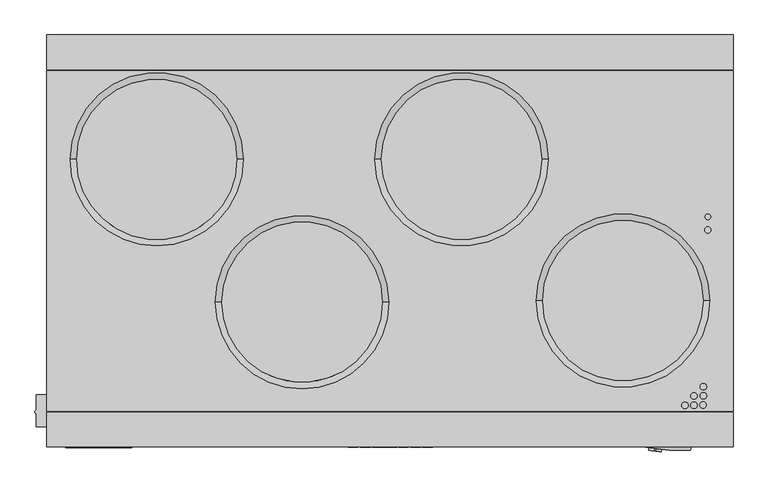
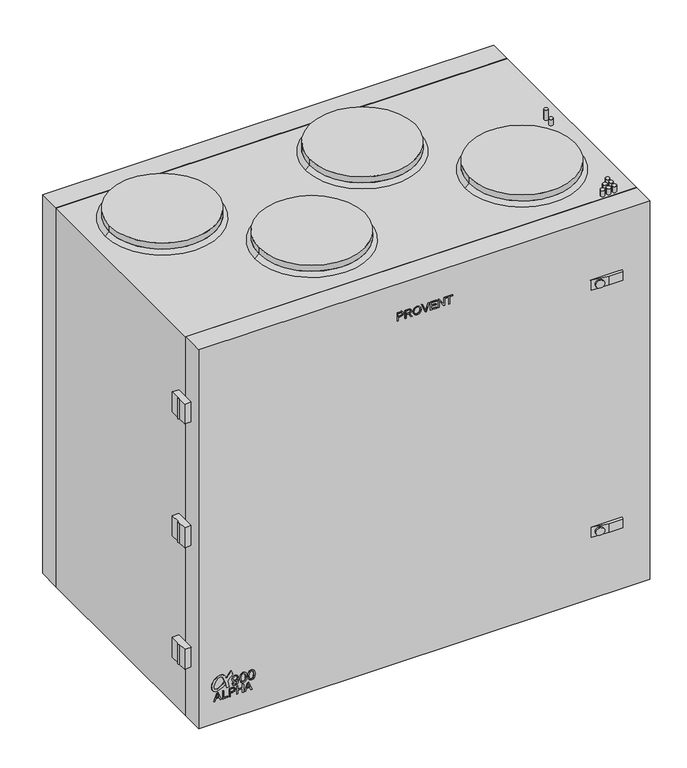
"""IFC4 building model written with IfcOpenShell, lengths in millimetres: proxy geometry, PROVENT_Вертикальная приточно-вытяжная установка_ALPHA 900 V_R : Provent ALPHA 900 V (R)."""

from ifc_helpers import new_model, si_unit, point, frame, frame_2d, origin, origin_with_axes, place, context, project, spatial, polyline, circle_curve, trimmed, segment, composite_curve, outline, extrude, faceted_brep, source, transform, mapped, element, save
from ifc_brep_helpers import plane_surface, revolved_surface, advanced_brep


def mechanical_equipment_fdac61b0(model_context):
    return source(origin(), model_context, "Body", "SolidModel", [
        extrude(outline(composite_curve([segment(trimmed(circle_curve(frame_2d((105.733129, -470.2007038)), 0.5380284), [point((105.5307619, -469.7021839))], [point((105.5307619, -470.6992237))], True, "CARTESIAN"), True, "CONTINUOUS"), segment(polyline([(105.5307619, -470.6992237), (108.4438718, -471.8174619), (110.8786758, -473.0580565), (111.8121807, -473.7117036)]), True, "CONTINUOUS"), segment(trimmed(circle_curve(frame_2d((104.0893382, -483.6821096)), 12.6115539), [point((111.8121807, -473.7117036))], [point((116.6261852, -485.0527876))], False, "CARTESIAN"), True, "CONTINUOUS"), segment(trimmed(circle_curve(frame_2d((94.7661112, -482.662783)), 21.9903379), [point((116.6261852, -485.0527876))], [point((104.4885666, -502.3871035))], False, "CARTESIAN"), True, "CONTINUOUS"), segment(trimmed(circle_curve(frame_2d((93.5739124, -483.8552237)), 21.5072137), [point((104.4885666, -502.3871035))], [point((86.750764, -504.2514217))], False, "CARTESIAN"), True, "CONTINUOUS"), segment(trimmed(circle_curve(frame_2d((92.3890877, -493.1278964)), 12.4709065), [point((86.750764, -504.2514217))], [point((79.9366704, -492.4490653))], False, "CARTESIAN"), True, "CONTINUOUS"), segment(trimmed(circle_curve(frame_2d((110.0461474, -496.1533199)), 30.3364814), [point((79.9366704, -492.4490653))], [point((90.1381753, -473.2628251))], False, "CARTESIAN"), True, "CONTINUOUS"), segment(polyline([(90.1381753, -473.2628251), (97.4533974, -475.6396849)]), True, "CONTINUOUS"), segment(trimmed(circle_curve(frame_2d((112.8376087, -501.1018274)), 29.7488598), [point((97.4533974, -475.6396849))], [point((85.9068624, -488.4634111))], True, "CARTESIAN"), True, "CONTINUOUS"), segment(trimmed(circle_curve(frame_2d((94.2043298, -492.3573562)), 9.1657392), [point((85.9068624, -488.4634111))], [point((86.5295452, -497.36819))], True, "CARTESIAN"), True, "CONTINUOUS"), segment(trimmed(circle_curve(frame_2d((91.0798658, -494.3973053)), 5.4342961), [point((86.5295452, -497.36819))], [point((91.5402338, -499.8120662))], True, "CARTESIAN"), True, "CONTINUOUS"), segment(trimmed(circle_curve(frame_2d((91.5850962, -481.0608185)), 18.7513014), [point((91.5402338, -499.8120662))], [point((99.8454243, -497.8946619))], True, "CARTESIAN"), True, "CONTINUOUS"), segment(trimmed(circle_curve(frame_2d((91.1893595, -472.8320384)), 26.5153267), [point((99.8454243, -497.8946619))], [point((111.1844004, -490.2464259))], True, "CARTESIAN"), True, "CONTINUOUS"), segment(trimmed(circle_curve(frame_2d((105.8571487, -485.6067341)), 7.0644427), [point((111.1844004, -490.2464259))], [point((110.4868357, -480.2707854))], True, "CARTESIAN"), True, "CONTINUOUS"), segment(trimmed(circle_curve(frame_2d((74.7273898, -542.8914951)), 72.1116583), [point((110.4868357, -480.2707854))], [point((96.0155477, -473.9937042))], True, "CARTESIAN"), True, "CONTINUOUS"), segment(polyline([(96.0155477, -473.9937042), (80.1999436, -468.8549029), (80.1999436, -462.8206094), (94.9084674, -466.6217069)]), True, "CONTINUOUS"), segment(trimmed(circle_curve(frame_2d((95.7729921, -463.2763882)), 3.4552222), [point((94.9084674, -466.6217069))], [point((98.5138308, -465.3802807))], True, "CARTESIAN"), True, "CONTINUOUS"), segment(polyline([(98.5138308, -465.3802807), (109.4841363, -455.1503053)]), True, "CONTINUOUS"), segment(trimmed(circle_curve(frame_2d((110.1625275, -455.8777908)), 0.9947108), [point((109.4841363, -455.1503053))], [point((110.8409186, -455.1503053))], False, "CARTESIAN"), True, "CONTINUOUS"), segment(polyline([(110.8409186, -455.1503053), (118.9566741, -459.1086237)]), True, "CONTINUOUS"), segment(trimmed(circle_curve(frame_2d((118.472789, -459.4522182)), 0.593466), [point((118.9566741, -459.1086237))], [point((118.8242858, -459.9303938))], False, "CARTESIAN"), True, "CONTINUOUS"), segment(polyline([(118.8242858, -459.9303938), (105.5307619, -469.7021839)]), True, "CONTINUOUS")], self_intersect=False)), frame((0.0, -322.0, 0.0), z_axis=(0.0, 1.0, 0.0), x_axis=(0.0, 0.0, 1.0)), (0.0, 0.0, 1.0), 1.0),
        extrude(outline(polyline([(55.4809879, -499.9996664), (55.4809879, -497.3460109), (61.7595073, -495.0504273), (61.7595073, -486.7755349), (55.4809879, -484.4750462), (55.4809879, -481.8213907), (75.57225, -489.8412182), (75.57225, -491.9798389), (55.4809879, -499.9996664)]), holes=[polyline([(64.2709151, -494.1282697), (69.6419922, -492.1613273), (73.0608422, -490.9105286), (69.210344, -489.5027668), (64.2709151, -487.6927874), (64.2709151, -494.1282697)])]), frame((0.0, -322.0, 0.0), z_axis=(0.0, 1.0, 0.0), x_axis=(0.0, 0.0, 1.0)), (0.0, 0.0, 1.0), 5.0),
        extrude(outline(polyline([(55.4809879, -479.1383047), (55.4809879, -466.5812659), (57.9923957, -466.5812659), (57.9923957, -476.626897), (75.57225, -476.626897), (75.57225, -479.1383047), (55.4809879, -479.1383047)])), frame((0.0, -322.0, 0.0), z_axis=(0.0, 1.0, 0.0), x_axis=(0.0, 0.0, 1.0)), (0.0, 0.0, 1.0), 5.0),
        extrude(outline(polyline([(55.4809879, -463.7559322), (55.4809879, -461.2445245), (63.6430631, -461.2445245), (63.6430631, -456.1383224), (65.4187069, -450.3037139), (69.7597144, -448.6874857), (72.499209, -449.2859071), (74.441626, -450.8677997), (75.3809513, -453.3080836), (75.57225, -456.3100006), (75.57225, -463.7559322), (55.4809879, -463.7559322)]), holes=[polyline([(66.1544709, -461.2445245), (73.0608422, -461.2445245), (73.0608422, -456.0500307), (72.8891639, -453.5386229), (71.7511823, -451.8439132), (69.6714228, -451.1988935), (67.0766284, -452.2927293), (66.1544709, -455.9911696), (66.1544709, -461.2445245)])]), frame((0.0, -322.0, 0.0), z_axis=(0.0, 1.0, 0.0), x_axis=(0.0, 0.0, 1.0)), (0.0, 0.0, 1.0), 5.0),
        extrude(outline(polyline([(55.4809879, -445.2343), (55.4809879, -442.7228923), (64.898767, -442.7228923), (64.898767, -432.0494093), (55.4809879, -432.0494093), (55.4809879, -429.5380016), (75.57225, -429.5380016), (75.57225, -432.0494093), (67.4101748, -432.0494093), (67.4101748, -442.7228923), (75.57225, -442.7228923), (75.57225, -445.2343), (55.4809879, -445.2343)])), frame((0.0, -322.0, 0.0), z_axis=(0.0, 1.0, 0.0), x_axis=(0.0, 0.0, 1.0)), (0.0, 0.0, 1.0), 5.0),
        extrude(outline(polyline([(55.4809879, -427.4827675), (55.4809879, -424.829112), (61.7595073, -422.5335284), (61.7595073, -414.258636), (55.4809879, -411.9581473), (55.4809879, -409.3044918), (75.57225, -417.3243193), (75.57225, -419.46294), (55.4809879, -427.4827675)]), holes=[polyline([(64.2709151, -421.6113709), (69.6419922, -419.6444285), (73.0608422, -418.3936297), (69.210344, -416.9858679), (64.2709151, -415.1758885), (64.2709151, -421.6113709)])]), frame((0.0, -322.0, 0.0), z_axis=(0.0, 1.0, 0.0), x_axis=(0.0, 0.0, 1.0)), (0.0, 0.0, 1.0), 5.0),
        extrude(outline(polyline([(85.8888798, -456.7446156), (80.9684581, -454.494404), (79.2179529, -449.6690185), (80.7017436, -444.8221733), (85.0212914, -441.7043733), (92.6456458, -440.6559097), (99.6721919, -441.707439), (103.4123255, -444.7853851), (104.7244379, -449.258217), (102.4251755, -454.8898772), (96.3551225, -457.137023), (90.475142, -454.9941104), (88.2433245, -449.7487263), (89.1568982, -446.305964), (90.9227317, -443.7767753), (87.2807, -444.2304964), (84.5522419, -445.2575003), (82.9550209, -446.9804143), (82.3572126, -449.5218657), (83.2861147, -452.1951416), (86.2812872, -453.6053559), (85.8888798, -456.7446156)]), holes=[polyline([(96.4286989, -443.7951694), (92.7222878, -445.2145807), (91.3825842, -448.8351527), (92.7222878, -452.6059431), (96.2018384, -453.9977633), (100.0860591, -452.5262354), (101.5851782, -448.7493136), (100.193358, -445.1502014), (96.4286989, -443.7951694)])]), frame((0.0, -322.0, 0.0), z_axis=(0.0, 1.0, 0.0), x_axis=(0.0, 0.0, 1.0)), (0.0, 0.0, 1.0), 5.0),
        extrude(outline(polyline([(91.9650641, -437.9090574), (81.6091859, -435.4074599), (79.2179529, -429.6685007), (80.5944447, -425.0730415), (84.7699054, -422.3415177), (91.9650641, -421.427944), (97.8665044, -421.9981611), (101.5821126, -423.4696891), (103.9150975, -426.0019435), (104.7244379, -429.6685007), (103.3571432, -434.2455659), (99.1908796, -436.9862868), (91.9650641, -437.9090574)]), holes=[polyline([(91.9711954, -434.7697977), (99.9051838, -433.2492188), (101.5851782, -429.7052889), (99.6783232, -425.9896808), (91.9711954, -424.5672037), (84.1812942, -426.0387317), (82.3572126, -429.6685007), (84.1751628, -433.2982698), (91.9711954, -434.7697977)])]), frame((0.0, -322.0, 0.0), z_axis=(0.0, 1.0, 0.0), x_axis=(0.0, 0.0, 1.0)), (0.0, 0.0, 1.0), 5.0),
        extrude(outline(polyline([(91.9650641, -418.6810918), (81.6091859, -416.1794942), (79.2179529, -410.4405351), (80.5944447, -405.8450759), (84.7699054, -403.1135521), (91.9650641, -402.1999784), (97.8665044, -402.7701955), (101.5821126, -404.2417235), (103.9150975, -406.7739779), (104.7244379, -410.4405351), (103.3571432, -415.0176003), (99.1908796, -417.7583211), (91.9650641, -418.6810918)]), holes=[polyline([(91.9711954, -415.5418321), (99.9051838, -414.0212532), (101.5851782, -410.4773233), (99.6783232, -406.7617152), (91.9711954, -405.3392381), (84.1812942, -406.8107661), (82.3572126, -410.4405351), (84.1751628, -414.0703041), (91.9711954, -415.5418321)])]), frame((0.0, -322.0, 0.0), z_axis=(0.0, 1.0, 0.0), x_axis=(0.0, 0.0, 1.0)), (0.0, 0.0, 1.0), 5.0),
        extrude(outline(polyline([(858.040157, -64.9826756), (858.040157, -62.4712679), (866.2022322, -62.4712679), (866.2022322, -57.3650658), (867.977876, -51.5304573), (872.3188835, -49.9142291), (875.0583781, -50.5126505), (877.0007951, -52.0945431), (877.9401204, -54.534827), (878.1314191, -57.536744), (878.1314191, -64.9826756), (858.040157, -64.9826756)]), holes=[polyline([(868.71364, -62.4712679), (875.6200113, -62.4712679), (875.6200113, -57.2767741), (875.448333, -54.7653663), (874.3103514, -53.0706566), (872.2305919, -52.4256369), (869.6357975, -53.5194727), (868.71364, -57.217913), (868.71364, -62.4712679)])]), frame((0.0, -322.0, 0.0), z_axis=(0.0, 1.0, 0.0), x_axis=(0.0, 0.0, 1.0)), (0.0, 0.0, 1.0), 5.0),
        extrude(outline(polyline([(858.040157, -46.4610434), (858.040157, -43.9496357), (866.8300842, -43.9496357), (866.2635459, -38.2670851), (864.9612436, -36.9402574), (862.2045812, -35.0517965), (858.040157, -32.4373818), (858.040157, -29.5188513), (863.4848106, -32.86903), (866.0697947, -34.9046437), (867.1440101, -36.3320258), (869.0128507, -32.1259084), (872.6328095, -30.764745), (875.6715148, -31.5863481), (877.5894063, -33.7838299), (878.1314191, -37.8035538), (878.1314191, -46.4610434), (858.040157, -46.4610434)]), holes=[polyline([(869.3414919, -43.9496357), (875.6200113, -43.9496357), (875.6200113, -37.6956418), (874.7518098, -34.3381054), (872.5396127, -33.2761527), (870.8350928, -33.8328808), (869.6971112, -35.4613718), (869.3414919, -38.3283988), (869.3414919, -43.9496357)])]), frame((0.0, -322.0, 0.0), z_axis=(0.0, 1.0, 0.0), x_axis=(0.0, 0.0, 1.0)), (0.0, 0.0, 1.0), 5.0),
        extrude(outline(polyline([(867.820913, -27.3115593), (862.8201704, -26.1637675), (859.0922995, -22.7890633), (857.7262311, -17.7368173), (858.9623146, -12.8734173), (862.6018938, -9.3908011), (868.0514524, -8.1620752), (873.4274346, -9.3294874), (877.1209698, -12.7238119), (878.445345, -17.722102), (875.6249164, -24.6333784), (867.820913, -27.3115593)]), holes=[polyline([(867.7963875, -24.8001516), (874.0577391, -22.7056767), (875.9339373, -17.7073867), (874.9602763, -14.0212091), (872.2158766, -11.5269692), (868.0710728, -10.673483), (862.2781576, -12.6674034), (860.2376388, -17.7515325), (862.2585372, -22.7915159), (867.7963875, -24.8001516)])]), frame((0.0, -322.0, 0.0), z_axis=(0.0, 1.0, 0.0), x_axis=(0.0, 0.0, 1.0)), (0.0, 0.0, 1.0), 5.0),
        extrude(outline(polyline([(858.040157, 1.2262733), (858.040157, 3.8210677), (878.1314191, 11.4779182), (878.1314191, 8.7899271), (863.6564888, 3.4237551), (860.3946018, 2.3544448), (863.6564888, 1.2704192), (878.1314191, -4.0810376), (878.1314191, -6.7690287), (858.040157, 1.2262733)])), frame((0.0, -322.0, 0.0), z_axis=(0.0, 1.0, 0.0), x_axis=(0.0, 0.0, 1.0)), (0.0, 0.0, 1.0), 5.0),
        extrude(outline(polyline([(858.040157, 13.8127426), (858.040157, 28.5672632), (860.5515648, 28.5672632), (860.5515648, 16.3241504), (867.1440101, 16.3241504), (867.1440101, 27.6254853), (869.6554179, 27.6254853), (869.6554179, 16.3241504), (875.6200113, 16.3241504), (875.6200113, 28.2533372), (878.1314191, 28.2533372), (878.1314191, 13.8127426), (858.040157, 13.8127426)])), frame((0.0, -322.0, 0.0), z_axis=(0.0, 1.0, 0.0), x_axis=(0.0, 0.0, 1.0)), (0.0, 0.0, 1.0), 5.0),
        extrude(outline(polyline([(858.040157, 32.3343748), (858.040157, 34.8457826), (873.9620898, 34.8457826), (858.040157, 45.3426822), (858.040157, 48.0306733), (878.1314191, 48.0306733), (878.1314191, 45.5192655), (862.2143914, 45.5192655), (878.1314191, 35.0223659), (878.1314191, 32.3343748), (858.040157, 32.3343748)])), frame((0.0, -322.0, 0.0), z_axis=(0.0, 1.0, 0.0), x_axis=(0.0, 0.0, 1.0)), (0.0, 0.0, 1.0), 5.0),
        extrude(outline(polyline([(858.040157, 57.4484524), (858.040157, 59.9598601), (875.6200113, 59.9598601), (875.6200113, 66.5523055), (878.1314191, 66.5523055), (878.1314191, 50.856007), (875.6200113, 50.856007), (875.6200113, 57.4484524), (858.040157, 57.4484524)])), frame((0.0, -322.0, 0.0), z_axis=(0.0, 1.0, 0.0), x_axis=(0.0, 0.0, 1.0)), (0.0, 0.0, 1.0), 5.0),
        extrude(outline(composite_curve([segment(trimmed(circle_curve(frame_2d((495.5549535, 37.5161614)), 4.363615), [point((491.1913384, 37.5161614))], [point((499.9185685, 37.5161614))], False, "CARTESIAN"), True, "CONTINUOUS"), segment(trimmed(circle_curve(frame_2d((495.5549535, 37.5161614)), 4.363615), [point((499.9185685, 37.5161614))], [point((491.1913384, 37.5161614))], False, "CARTESIAN"), True, "CONTINUOUS")], self_intersect=False)), frame((0.0, 0.0, 950.0), z_axis=(0.0, 0.0, 1.0), x_axis=(1.0, 0.0, 0.0)), (0.0, 0.0, 1.0), 26.0),
        extrude(outline(composite_curve([segment(trimmed(circle_curve(frame_2d((495.5549535, 17.0594523)), 5.0), [point((490.5549535, 17.0594523))], [point((500.5549535, 17.0594523))], False, "CARTESIAN"), True, "CONTINUOUS"), segment(trimmed(circle_curve(frame_2d((495.5549535, 17.0594523)), 5.0), [point((500.5549535, 17.0594523))], [point((490.5549535, 17.0594523))], False, "CARTESIAN"), True, "CONTINUOUS")], self_intersect=False)), frame((0.0, 0.0, 950.0), z_axis=(0.0, 0.0, 1.0), x_axis=(1.0, 0.0, 0.0)), (0.0, 0.0, 1.0), 15.0),
        extrude(outline(composite_curve([segment(trimmed(circle_curve(frame_2d((488.6799535, -241.3585618)), 5.0), [point((483.6799535, -241.3585618))], [point((493.6799535, -241.3585618))], False, "CARTESIAN"), True, "CONTINUOUS"), segment(trimmed(circle_curve(frame_2d((488.6799535, -241.3585618)), 5.0), [point((493.6799535, -241.3585618))], [point((483.6799535, -241.3585618))], False, "CARTESIAN"), True, "CONTINUOUS")], self_intersect=False)), frame((0.0, 0.0, 950.0), z_axis=(0.0, 0.0, 1.0), x_axis=(1.0, 0.0, 0.0)), (0.0, 0.0, 1.0), 15.0),
        extrude(outline(composite_curve([segment(trimmed(circle_curve(frame_2d((473.9405338, -256.2023118)), 5.0), [point((468.9405338, -256.2023118))], [point((478.9405338, -256.2023118))], False, "CARTESIAN"), True, "CONTINUOUS"), segment(trimmed(circle_curve(frame_2d((473.9405338, -256.2023118)), 5.0), [point((478.9405338, -256.2023118))], [point((468.9405338, -256.2023118))], False, "CARTESIAN"), True, "CONTINUOUS")], self_intersect=False)), frame((0.0, 0.0, 950.0), z_axis=(0.0, 0.0, 1.0), x_axis=(1.0, 0.0, 0.0)), (0.0, 0.0, 1.0), 15.0),
        extrude(outline(composite_curve([segment(trimmed(circle_curve(frame_2d((459.9299535, -256.3585618)), 5.0), [point((454.9299535, -256.3585618))], [point((464.9299535, -256.3585618))], False, "CARTESIAN"), True, "CONTINUOUS"), segment(trimmed(circle_curve(frame_2d((459.9299535, -256.3585618)), 5.0), [point((464.9299535, -256.3585618))], [point((454.9299535, -256.3585618))], False, "CARTESIAN"), True, "CONTINUOUS")], self_intersect=False)), frame((0.0, 0.0, 950.0), z_axis=(0.0, 0.0, 1.0), x_axis=(1.0, 0.0, 0.0)), (0.0, 0.0, 1.0), 15.0),
        extrude(outline(composite_curve([segment(trimmed(circle_curve(frame_2d((488.6799535, -227.2960618)), 5.0), [point((483.6799535, -227.2960618))], [point((493.6799535, -227.2960618))], False, "CARTESIAN"), True, "CONTINUOUS"), segment(trimmed(circle_curve(frame_2d((488.6799535, -227.2960618)), 5.0), [point((493.6799535, -227.2960618))], [point((483.6799535, -227.2960618))], False, "CARTESIAN"), True, "CONTINUOUS")], self_intersect=False)), frame((0.0, 0.0, 950.0), z_axis=(0.0, 0.0, 1.0), x_axis=(1.0, 0.0, 0.0)), (0.0, 0.0, 1.0), 15.0),
        extrude(outline(composite_curve([segment(trimmed(circle_curve(frame_2d((488.120726, -255.7335618)), 5.0), [point((483.120726, -255.7335618))], [point((493.120726, -255.7335618))], False, "CARTESIAN"), True, "CONTINUOUS"), segment(trimmed(circle_curve(frame_2d((488.120726, -255.7335618)), 5.0), [point((493.120726, -255.7335618))], [point((483.120726, -255.7335618))], False, "CARTESIAN"), True, "CONTINUOUS")], self_intersect=False)), frame((0.0, 0.0, 950.0), z_axis=(0.0, 0.0, 1.0), x_axis=(1.0, 0.0, 0.0)), (0.0, 0.0, 1.0), 15.0),
        extrude(outline(composite_curve([segment(trimmed(circle_curve(frame_2d((473.9405338, -241.5938936)), 5.0), [point((468.9405338, -241.5938936))], [point((478.9405338, -241.5938936))], False, "CARTESIAN"), True, "CONTINUOUS"), segment(trimmed(circle_curve(frame_2d((473.9405338, -241.5938936)), 5.0), [point((478.9405338, -241.5938936))], [point((468.9405338, -241.5938936))], False, "CARTESIAN"), True, "CONTINUOUS")], self_intersect=False)), frame((0.0, 0.0, 950.0), z_axis=(0.0, 0.0, 1.0), x_axis=(1.0, 0.0, 0.0)), (0.0, 0.0, 1.0), 15.0),
        extrude(outline(composite_curve([segment(trimmed(circle_curve(frame_2d((363.25, -93.0)), 125.0), [point((238.25, -93.0))], [point((488.25, -93.0))], False, "CARTESIAN"), True, "CONTINUOUS"), segment(trimmed(circle_curve(frame_2d((363.25, -93.0)), 125.0), [point((488.25, -93.0))], [point((238.25, -93.0))], False, "CARTESIAN"), True, "CONTINUOUS")], self_intersect=False)), frame((0.0, 0.0, 958.5199387), z_axis=(0.0, 0.0, 1.0), x_axis=(1.0, 0.0, 0.0)), (0.0, 0.0, 1.0), 15.0),
        advanced_brep(
        [(238.25, -93.0, 958.5199387), (488.25, -93.0, 958.5199387), (228.25, -93.0, 950.0), (498.25, -93.0, 950.0)],
        [
            (0, 1, circle_curve(frame((363.25, -93.0, 958.5199387), z_axis=(0.0, 0.0, 1.0), x_axis=(-1.0, 0.0, 0.0)), 125.0)),
            (1, 0, circle_curve(frame((363.25, -93.0, 958.5199387), z_axis=(0.0, 0.0, 1.0), x_axis=(1.0, 0.0, 0.0)), 125.0)),
            (2, 3, circle_curve(frame((363.25, -93.0, 950.0), z_axis=(0.0, 0.0, -1.0), x_axis=(1.0, 0.0, 0.0)), 135.0)),
            (3, 2, circle_curve(frame((363.25, -93.0, 950.0), z_axis=(0.0, 0.0, -1.0), x_axis=(-1.0, 0.0, 0.0)), 135.0)),
            (3, 1),
            (0, 2),
        ],
        [
            plane_surface(frame((363.25, -93.0, 958.5199387), z_axis=(0.0, 0.0, 1.0), x_axis=(0.0, -1.0, 0.0))),
            plane_surface(frame((363.25, -93.0, 950.0), z_axis=(0.0, 0.0, -1.0), x_axis=(0.0, -1.0, 0.0))),
            revolved_surface(polyline([(238.2500000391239, -93.0, 958.5199387), (228.25, -93.0, 950.0)]), (363.25, -93.0, 1065.019172), (0.0, 0.0, -1.0)),
            revolved_surface(polyline([(488.2499999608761, -93.0, 958.5199387), (498.25, -93.0, 950.0)]), (363.25, -93.0, 1065.019172), (0.0, 0.0, -1.0)),
        ],
        [
            (0, [[1, 2]]),
            (1, [[3, 4]]),
            (2, [[-4, 5, -1, 6]]),
            (3, [[-3, -6, -2, -5]]),
        ],
    ),
        extrude(outline(composite_curve([segment(trimmed(circle_curve(frame_2d((-136.75, -95.5)), 125.0), [point((-261.75, -95.5))], [point((-11.75, -95.5))], False, "CARTESIAN"), True, "CONTINUOUS"), segment(trimmed(circle_curve(frame_2d((-136.75, -95.5)), 125.0), [point((-11.75, -95.5))], [point((-261.75, -95.5))], False, "CARTESIAN"), True, "CONTINUOUS")], self_intersect=False)), frame((0.0, 0.0, 958.5199387), z_axis=(0.0, 0.0, 1.0), x_axis=(1.0, 0.0, 0.0)), (0.0, 0.0, 1.0), 15.0),
        advanced_brep(
        [(-261.75, -95.5, 958.5199387), (-11.75, -95.5, 958.5199387), (-271.75, -95.5, 950.0), (-1.75, -95.5, 950.0)],
        [
            (0, 1, circle_curve(frame((-136.75, -95.5, 958.5199387), z_axis=(0.0, 0.0, 1.0), x_axis=(-1.0, 0.0, 0.0)), 125.0)),
            (1, 0, circle_curve(frame((-136.75, -95.5, 958.5199387), z_axis=(0.0, 0.0, 1.0), x_axis=(1.0, 0.0, 0.0)), 125.0)),
            (2, 3, circle_curve(frame((-136.75, -95.5, 950.0), z_axis=(0.0, 0.0, -1.0), x_axis=(1.0, 0.0, 0.0)), 135.0)),
            (3, 2, circle_curve(frame((-136.75, -95.5, 950.0), z_axis=(0.0, 0.0, -1.0), x_axis=(-1.0, 0.0, 0.0)), 135.0)),
            (3, 1),
            (0, 2),
        ],
        [
            plane_surface(frame((-136.75, -95.5, 958.5199387), z_axis=(0.0, 0.0, 1.0), x_axis=(0.0, -1.0, 0.0))),
            plane_surface(frame((-136.75, -95.5, 950.0), z_axis=(0.0, 0.0, -1.0), x_axis=(0.0, -1.0, 0.0))),
            revolved_surface(polyline([(-261.7499999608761, -95.5, 958.5199387), (-271.75, -95.5, 950.0)]), (-136.75, -95.5, 1065.019172), (0.0, 0.0, -1.0)),
            revolved_surface(polyline([(-11.750000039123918, -95.5, 958.5199387), (-1.75, -95.5, 950.0)]), (-136.75, -95.5, 1065.019172), (0.0, 0.0, -1.0)),
        ],
        [
            (0, [[1, 2]]),
            (1, [[3, 4]]),
            (2, [[-4, 5, -1, 6]]),
            (3, [[-3, -6, -2, -5]]),
        ],
    ),
        extrude(outline(composite_curve([segment(trimmed(circle_curve(frame_2d((-363.25, 127.0881439)), 125.0), [point((-488.25, 127.0881439))], [point((-238.25, 127.0881439))], False, "CARTESIAN"), True, "CONTINUOUS"), segment(trimmed(circle_curve(frame_2d((-363.25, 127.0881439)), 125.0), [point((-238.25, 127.0881439))], [point((-488.25, 127.0881439))], False, "CARTESIAN"), True, "CONTINUOUS")], self_intersect=False)), frame((0.0, 0.0, 958.5199387), z_axis=(0.0, 0.0, 1.0), x_axis=(1.0, 0.0, 0.0)), (0.0, 0.0, 1.0), 15.0),
        advanced_brep(
        [(-488.25, 127.0881439, 958.5199387), (-238.25, 127.0881439, 958.5199387), (-498.25, 127.0881439, 950.0), (-228.25, 127.0881439, 950.0)],
        [
            (0, 1, circle_curve(frame((-363.25, 127.0881439, 958.5199387), z_axis=(0.0, 0.0, 1.0), x_axis=(-1.0, 0.0, 0.0)), 125.0)),
            (1, 0, circle_curve(frame((-363.25, 127.0881439, 958.5199387), z_axis=(0.0, 0.0, 1.0), x_axis=(1.0, 0.0, 0.0)), 125.0)),
            (2, 3, circle_curve(frame((-363.25, 127.0881439, 950.0), z_axis=(0.0, 0.0, -1.0), x_axis=(1.0, 0.0, 0.0)), 135.0)),
            (3, 2, circle_curve(frame((-363.25, 127.0881439, 950.0), z_axis=(0.0, 0.0, -1.0), x_axis=(-1.0, 0.0, 0.0)), 135.0)),
            (3, 1),
            (0, 2),
        ],
        [
            plane_surface(frame((-363.25, 127.0881439, 958.5199387), z_axis=(0.0, 0.0, 1.0), x_axis=(0.0, -1.0, 0.0))),
            plane_surface(frame((-363.25, 127.0881439, 950.0), z_axis=(0.0, 0.0, -1.0), x_axis=(0.0, -1.0, 0.0))),
            revolved_surface(polyline([(-488.2499999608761, 127.0881439, 958.5199387), (-498.25, 127.0881439, 950.0)]), (-363.25, 127.0881439, 1065.019172), (0.0, 0.0, -1.0)),
            revolved_surface(polyline([(-238.2500000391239, 127.0881439, 958.5199387), (-228.25, 127.0881439, 950.0)]), (-363.25, 127.0881439, 1065.019172), (0.0, 0.0, -1.0)),
        ],
        [
            (0, [[1, 2]]),
            (1, [[3, 4]]),
            (2, [[-4, 5, -1, 6]]),
            (3, [[-3, -6, -2, -5]]),
        ],
    ),
        extrude(outline(composite_curve([segment(trimmed(circle_curve(frame_2d((111.75, 127.0881439)), 125.0), [point((-13.25, 127.0881439))], [point((236.75, 127.0881439))], False, "CARTESIAN"), True, "CONTINUOUS"), segment(trimmed(circle_curve(frame_2d((111.75, 127.0881439)), 125.0), [point((236.75, 127.0881439))], [point((-13.25, 127.0881439))], False, "CARTESIAN"), True, "CONTINUOUS")], self_intersect=False)), frame((0.0, 0.0, 958.5199387), z_axis=(0.0, 0.0, 1.0), x_axis=(1.0, 0.0, 0.0)), (0.0, 0.0, 1.0), 15.0),
        advanced_brep(
        [(-13.25, 127.0881439, 958.5199387), (236.75, 127.0881439, 958.5199387), (-23.25, 127.0881439, 950.0), (246.75, 127.0881439, 950.0)],
        [
            (0, 1, circle_curve(frame((111.75, 127.0881439, 958.5199387), z_axis=(0.0, 0.0, 1.0), x_axis=(-1.0, 0.0, 0.0)), 125.0)),
            (1, 0, circle_curve(frame((111.75, 127.0881439, 958.5199387), z_axis=(0.0, 0.0, 1.0), x_axis=(1.0, 0.0, 0.0)), 125.0)),
            (2, 3, circle_curve(frame((111.75, 127.0881439, 950.0), z_axis=(0.0, 0.0, -1.0), x_axis=(1.0, 0.0, 0.0)), 135.0)),
            (3, 2, circle_curve(frame((111.75, 127.0881439, 950.0), z_axis=(0.0, 0.0, -1.0), x_axis=(-1.0, 0.0, 0.0)), 135.0)),
            (3, 1),
            (0, 2),
        ],
        [
            plane_surface(frame((111.75, 127.0881439, 958.5199387), z_axis=(0.0, 0.0, 1.0), x_axis=(0.0, -1.0, 0.0))),
            plane_surface(frame((111.75, 127.0881439, 950.0), z_axis=(0.0, 0.0, -1.0), x_axis=(0.0, -1.0, 0.0))),
            revolved_surface(polyline([(-13.249999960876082, 127.0881439, 958.5199387), (-23.25, 127.0881439, 950.0)]), (111.75, 127.0881439, 1065.019172), (0.0, 0.0, -1.0)),
            revolved_surface(polyline([(236.7499999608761, 127.0881439, 958.5199387), (246.75, 127.0881439, 950.0)]), (111.75, 127.0881439, 1065.019172), (0.0, 0.0, -1.0)),
        ],
        [
            (0, [[1, 2]]),
            (1, [[3, 4]]),
            (2, [[-4, 5, -1, 6]]),
            (3, [[-3, -6, -2, -5]]),
        ],
    ),
        extrude(outline(polyline([(-535.0, 264.818014), (535.0, 264.818014), (535.0, -265.61), (-535.0, -265.61), (-535.0, 264.818014)])), origin_with_axes(), (0.0, 0.0, 1.0), 950.0),
        extrude(outline(polyline([(-535.0, -267.418014), (535.0, -267.418014), (535.0, -321.0), (-535.0, -321.0), (-535.0, -267.418014)])), origin_with_axes(), (0.0, 0.0, 1.0), 950.0),
        extrude(outline(polyline([(-535.0, 321.0), (535.0, 321.0), (535.0, 266.818014), (-535.0, 266.818014), (-535.0, 321.0)])), origin_with_axes(), (0.0, 0.0, 1.0), 950.0),
        extrude(outline(composite_curve([segment(polyline([(-551.0, -289.918014), (-551.0, -268.8875225)]), True, "CONTINUOUS"), segment(trimmed(circle_curve(frame_2d((-550.5566135, -266.3602375)), 2.565884), [point((-551.0, -268.8875225))], [point((-551.196739, -263.875484))], False, "CARTESIAN"), True, "CONTINUOUS"), segment(polyline([(-551.196739, -263.875484), (-551.196739, -239.918014), (-535.0, -239.918014), (-535.0, -289.918014), (-551.0, -289.918014)]), True, "CONTINUOUS")], self_intersect=False)), frame((0.0, 0.0, 440.9885126), z_axis=(0.0, 0.0, 1.0), x_axis=(1.0, 0.0, 0.0)), (0.0, 0.0, 1.0), 50.0),
        extrude(outline(composite_curve([segment(polyline([(-551.0, -289.918014), (-551.0, -268.8875225)]), True, "CONTINUOUS"), segment(trimmed(circle_curve(frame_2d((-550.5566135, -266.3602375)), 2.565884), [point((-551.0, -268.8875225))], [point((-551.196739, -263.875484))], False, "CARTESIAN"), True, "CONTINUOUS"), segment(polyline([(-551.196739, -263.875484), (-551.196739, -239.918014), (-535.0, -239.918014), (-535.0, -289.918014), (-551.0, -289.918014)]), True, "CONTINUOUS")], self_intersect=False)), frame((0.0, 0.0, 750.9885126), z_axis=(0.0, 0.0, 1.0), x_axis=(1.0, 0.0, 0.0)), (0.0, 0.0, 1.0), 50.0),
        extrude(outline(composite_curve([segment(polyline([(-551.0, -289.918014), (-551.0, -268.8875225)]), True, "CONTINUOUS"), segment(trimmed(circle_curve(frame_2d((-550.5566135, -266.3602375)), 2.565884), [point((-551.0, -268.8875225))], [point((-551.196739, -263.875484))], False, "CARTESIAN"), True, "CONTINUOUS"), segment(polyline([(-551.196739, -263.875484), (-551.196739, -239.918014), (-535.0, -239.918014), (-535.0, -289.918014), (-551.0, -289.918014)]), True, "CONTINUOUS")], self_intersect=False)), frame((0.0, 0.0, 135.9885126), z_axis=(0.0, 0.0, 1.0), x_axis=(1.0, 0.0, 0.0)), (0.0, 0.0, 1.0), 50.0),
        extrude(outline(composite_curve([segment(polyline([(-1.832016, 0.0), (0.0, 0.0)]), True, "CONTINUOUS"), segment(trimmed(circle_curve(frame_2d((0.0, -9.1119152)), 9.1119152), [point((0.0, 0.0))], [point((0.0, -18.2238304))], False, "CARTESIAN"), True, "CONTINUOUS"), segment(polyline([(0.0, -18.2238304), (-1.832016, -18.2238304)]), True, "CONTINUOUS"), segment(trimmed(circle_curve(frame_2d((-1.832016, -9.1119152)), 9.1119152), [point((-1.832016, -18.2238304))], [point((-1.832016, 0.0))], False, "CARTESIAN"), True, "CONTINUOUS")], self_intersect=False)), frame((412.5340697, -327.2971851, 175.6836071), z_axis=(0.11489459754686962, 0.9933776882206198, 0.0), x_axis=(-0.9933776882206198, 0.11489459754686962, 0.0)), (0.0, 0.0, 1.0), 3.9271589),
        faceted_brep([(468.0331772, -326.0, 177.5291022), (435.4991541, -326.0, 177.5291022), (435.4991541, -326.0, 156.2166489), (468.0331772, -326.0, 156.2166489), (469.5161654, -321.0, 180.2463053), (469.5161654, -321.0, 153.9074374), (392.2691977, -321.0, 153.9074374), (392.2691977, -321.0, 180.2463053)], [[[0, 1, 2, 3]], [[4, 5, 6, 7]], [[4, 7, 1, 0]], [[7, 6, 2, 1]], [[6, 5, 3, 2]], [[5, 4, 0, 3]]]),
        extrude(outline(composite_curve([segment(polyline([(-1.832016, 0.0), (0.0, 0.0)]), True, "CONTINUOUS"), segment(trimmed(circle_curve(frame_2d((0.0, -9.1119152)), 9.1119152), [point((0.0, 0.0))], [point((0.0, -18.2238304))], False, "CARTESIAN"), True, "CONTINUOUS"), segment(polyline([(0.0, -18.2238304), (-1.832016, -18.2238304)]), True, "CONTINUOUS"), segment(trimmed(circle_curve(frame_2d((-1.832016, -9.1119152)), 9.1119152), [point((-1.832016, -18.2238304))], [point((-1.832016, 0.0))], False, "CARTESIAN"), True, "CONTINUOUS")], self_intersect=False)), frame((412.5340697, -327.2971851, 795.6836071), z_axis=(0.11489459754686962, 0.9933776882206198, 0.0), x_axis=(-0.9933776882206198, 0.11489459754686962, 0.0)), (0.0, 0.0, 1.0), 3.9271589),
        faceted_brep([(468.0331772, -326.0, 797.5291022), (435.4991541, -326.0, 797.5291022), (435.4991541, -326.0, 776.2166489), (468.0331772, -326.0, 776.2166489), (469.5161654, -321.0, 800.2463053), (469.5161654, -321.0, 773.9074374), (392.2691977, -321.0, 773.9074374), (392.2691977, -321.0, 800.2463053)], [[[0, 1, 2, 3]], [[4, 5, 6, 7]], [[4, 7, 1, 0]], [[7, 6, 2, 1]], [[6, 5, 3, 2]], [[5, 4, 0, 3]]]),
    ])


if __name__ == "__main__":
    model = new_model("IFC4")
    model_context = context("Model", 3, world=origin())
    ifc_project = project(units=[si_unit("LENGTHUNIT", "METRE", prefix="MILLI")], contexts=[model_context])
    site = spatial("IfcSite", under=ifc_project)
    building = spatial("IfcBuilding", under=site)
    placement = place(None, origin())
    mechanical_equipment_shape = mechanical_equipment_fdac61b0(model_context)
    element("IfcBuildingElementProxy", 1, Name="PROVENT_Вертикальная приточно-вытяжная установка_ALPHA 900 V_R : Provent ALPHA 900 V (R)", ObjectType="PROVENT_Вертикальная приточно-вытяжная установка_ALPHA 900 V_R : Provent ALPHA 900 V (R)", at=placement, inside=building, context=model_context, shape_type="MappedRepresentation", body=[
        mapped(mechanical_equipment_shape, transform((0.0, 0.0, 0.0), x_axis=(1.0, 0.0, 0.0), y_axis=(0.0, 1.0, 0.0), z_axis=(0.0, 0.0, 1.0))),
    ])
    save(model, "model.ifc")
